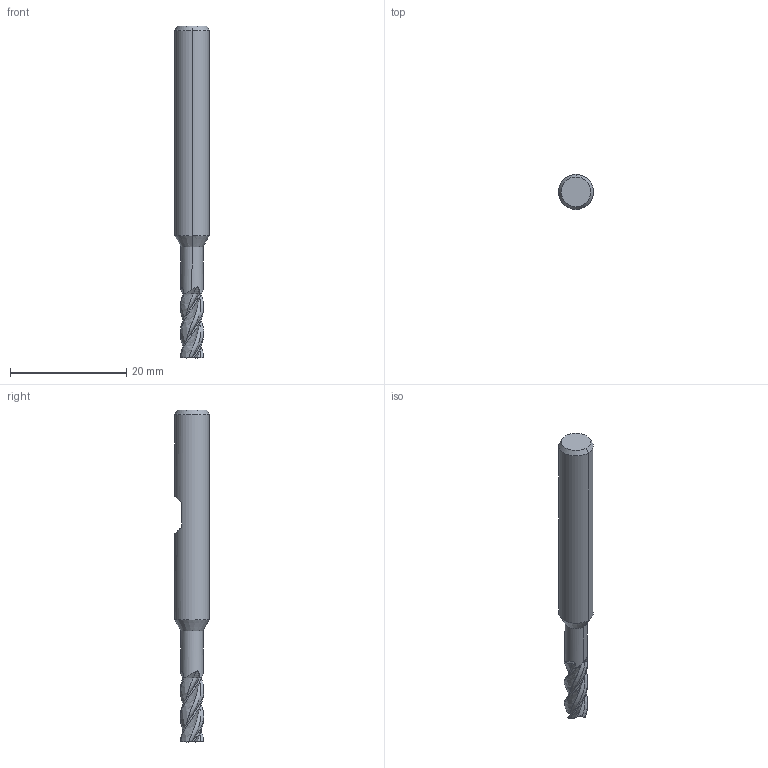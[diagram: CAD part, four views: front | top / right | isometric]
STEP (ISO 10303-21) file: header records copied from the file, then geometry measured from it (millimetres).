
FILE_DESCRIPTION(('no description'),'unknown implementation level');
FILE_NAME('solidUADcyGGY834xOTRhRj74hhIZ7R8_1.STP',' ',('CIMSOURCE GmbH'),('CADClick - KiM GmbH - www.kimweb.de'),'unknown preprocess','ACIS','unknown authorization');
FILE_SCHEMA(('automotive_design'));
Length unit declared in the file: millimetre
Products named in the file (2): NOCUT; CUT
Bounding box: 6 x 6 x 57 mm (x, y, z)
Volume: 1194.3 mm3; surface area: 1135.3 mm2
Topology: 2 solids, 2 shells, 125 faces, 350 edges, 228 vertices
Faces by surface type: bspline 48, plane 27, cone 22, cylinder 16, revolution 12
Entity records: 19730 total; most frequent: CARTESIAN_POINT 13051, STYLED_ITEM 705, PRESENTATION_STYLE_ASSIGNMENT 705, COLOUR_RGB 705, ORIENTED_EDGE 700, DIRECTION 380, EDGE_CURVE 350, CURVE_STYLE 350
